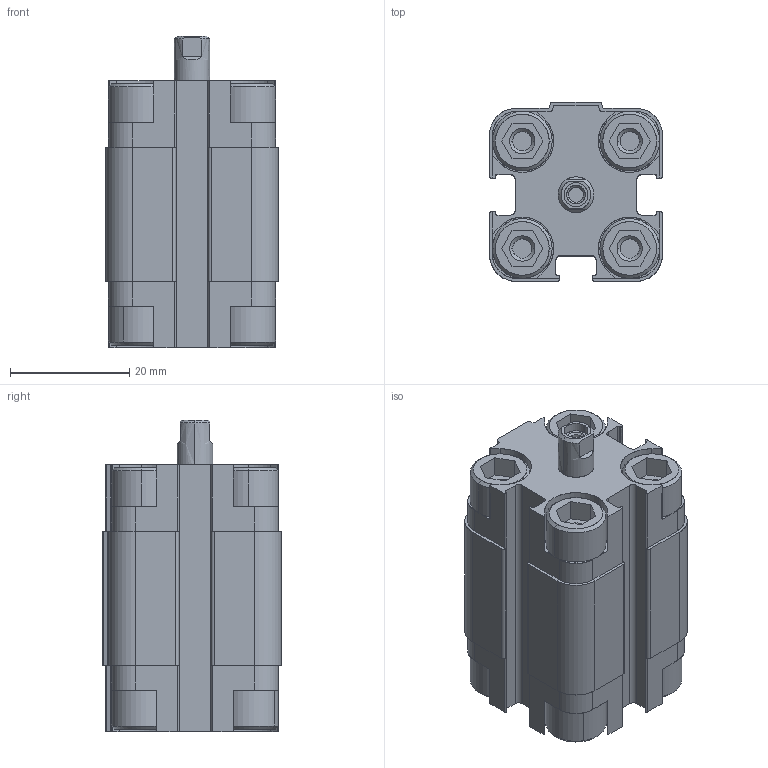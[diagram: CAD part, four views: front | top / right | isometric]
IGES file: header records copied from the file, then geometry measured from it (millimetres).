
Start section: SolidWorks IGES file using analytic representation for surfaces
Global section: file name: K:\Disegni Esecutivi\Cilindri\2_DISEGNI_cilindri_in_produzione\5_Cilindri Compatti\complessivicompatti\QF\QF012\QF012PARTI\QF0120010A.igs; native system: SolidWorks 2011; preprocessor: SolidWorks 2011; author: Cad01; date: 110914.083757; units: millimetre
Bounding box: 29 x 30 x 52.3 mm (x, y, z)
Surface area: 11604.6 mm2 (no closed solid volume)
Topology: 0 solids, 0 shells, 351 faces, 3883 edges, 3883 vertices
Faces by surface type: bspline 194, revolution 157
